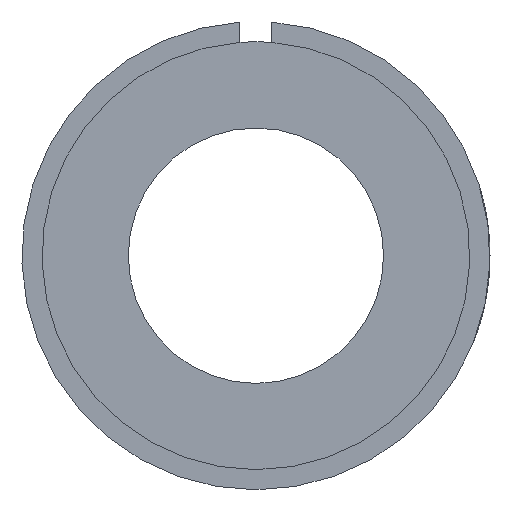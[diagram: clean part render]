
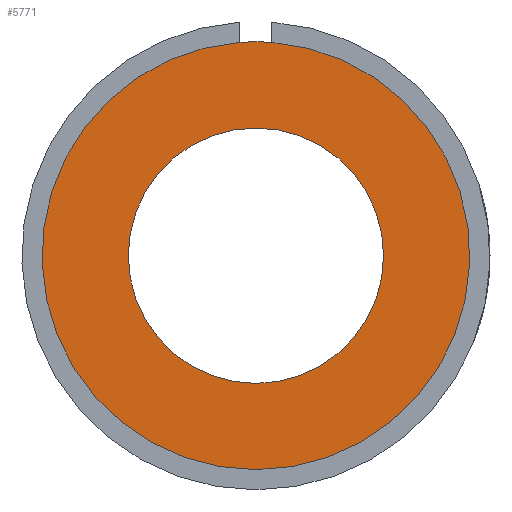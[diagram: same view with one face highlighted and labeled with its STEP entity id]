
A CAD part, left-side view. The second image highlights one B-rep face of the part: STEP entity #5771.
In plain terms, the highlighted planar face has unit normal (-1, 0, 0).
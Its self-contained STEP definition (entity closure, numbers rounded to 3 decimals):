
#127=PLANE('',#6219);
#587=CIRCLE('',#6194,6.);
#600=CIRCLE('',#6220,10.053);
#601=CIRCLE('',#6221,10.053);
#993=ORIENTED_EDGE('',*,*,#2734,.F.);
#994=ORIENTED_EDGE('',*,*,#2735,.F.);
#995=ORIENTED_EDGE('',*,*,#2699,.T.);
#2699=EDGE_CURVE('',#3576,#3576,#587,.F.);
#2734=EDGE_CURVE('',#3599,#3600,#600,.T.);
#2735=EDGE_CURVE('',#3600,#3599,#601,.T.);
#3576=VERTEX_POINT('',#8953);
#3599=VERTEX_POINT('',#9024);
#3600=VERTEX_POINT('',#9025);
#4959=EDGE_LOOP('',(#993,#994));
#4960=EDGE_LOOP('',(#995));
#5357=FACE_BOUND('',#4959,.T.);
#5358=FACE_BOUND('',#4960,.T.);
#5771=ADVANCED_FACE('',(#5357,#5358),#127,.T.);
#6194=AXIS2_PLACEMENT_3D('',#8952,#6790,#6791);
#6219=AXIS2_PLACEMENT_3D('',#9022,#6862,#6863);
#6220=AXIS2_PLACEMENT_3D('',#9023,#6864,#6865);
#6221=AXIS2_PLACEMENT_3D('',#9026,#6866,#6867);
#6790=DIRECTION('',(-1.,0.,0.));
#6791=DIRECTION('',(0.,0.,1.));
#6862=DIRECTION('',(-1.,0.,0.));
#6863=DIRECTION('',(0.,0.,-1.));
#6864=DIRECTION('',(1.,0.,0.));
#6865=DIRECTION('',(0.,0.,-1.));
#6866=DIRECTION('',(1.,0.,0.));
#6867=DIRECTION('',(0.,0.,-1.));
#8952=CARTESIAN_POINT('',(-15.,0.,0.));
#8953=CARTESIAN_POINT('',(-15.,0.,6.));
#9022=CARTESIAN_POINT('',(-15.,0.,0.));
#9023=CARTESIAN_POINT('',(-15.,0.,0.));
#9024=CARTESIAN_POINT('',(-15.,0.75,10.025));
#9025=CARTESIAN_POINT('',(-15.,-0.75,10.025));
#9026=CARTESIAN_POINT('',(-15.,0.,0.));
